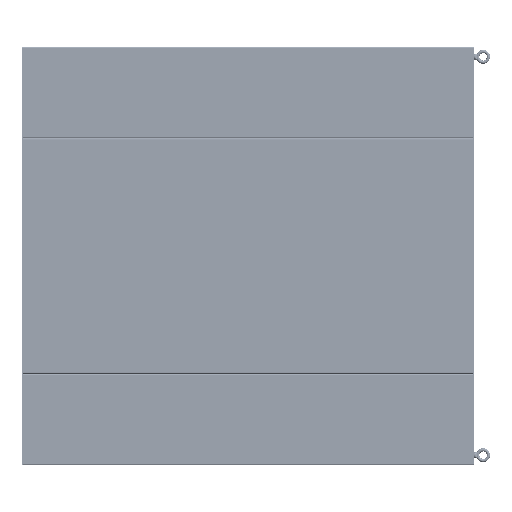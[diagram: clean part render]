
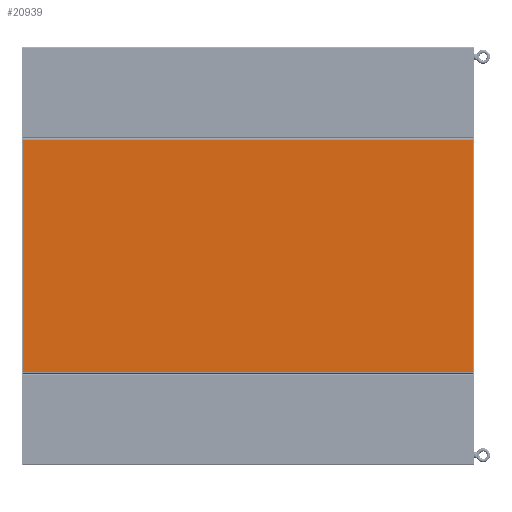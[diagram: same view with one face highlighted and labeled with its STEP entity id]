
A CAD part, left-side view. The second image highlights one B-rep face of the part: STEP entity #20939.
In plain terms, the highlighted planar face has unit normal (-1, 0, 0) as drawn and (0, 0, -1) by its records, which use the part's own axes.
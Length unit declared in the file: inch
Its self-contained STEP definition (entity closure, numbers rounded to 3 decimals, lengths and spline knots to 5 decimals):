
#20475=DIRECTION('',(0.,-1.,0.));
#20476=VECTOR('',#20475,83.75);
#20477=CARTESIAN_POINT('',(-21.625,0.,-0.125));
#20478=LINE('',#20477,#20476);
#20490=DIRECTION('',(1.,0.,0.));
#20491=VECTOR('',#20490,43.25);
#20492=CARTESIAN_POINT('',(-21.625,-83.75,-0.125));
#20493=LINE('',#20492,#20491);
#20497=DIRECTION('',(-1.,0.,0.));
#20498=VECTOR('',#20497,43.25);
#20499=CARTESIAN_POINT('',(21.625,0.,-0.125));
#20500=LINE('',#20499,#20498);
#20533=DIRECTION('',(0.,1.,0.));
#20534=VECTOR('',#20533,83.75);
#20535=CARTESIAN_POINT('',(21.625,-83.75,-0.125));
#20536=LINE('',#20535,#20534);
#20740=CARTESIAN_POINT('',(21.625,0.,-0.125));
#20741=VERTEX_POINT('',#20740);
#20742=CARTESIAN_POINT('',(21.625,-83.75,-0.125));
#20743=VERTEX_POINT('',#20742);
#20756=CARTESIAN_POINT('',(-21.625,-83.75,-0.125));
#20757=VERTEX_POINT('',#20756);
#20758=CARTESIAN_POINT('',(-21.625,0.,-0.125));
#20759=VERTEX_POINT('',#20758);
#20925=CARTESIAN_POINT('',(0.,0.,-0.125));
#20926=DIRECTION('',(0.,0.,1.));
#20927=DIRECTION('',(1.,0.,0.));
#20928=AXIS2_PLACEMENT_3D('',#20925,#20926,#20927);
#20929=PLANE('',#20928);
#20930=ORIENTED_EDGE('',*,*,#20918,.T.);
#20932=ORIENTED_EDGE('',*,*,#20931,.T.);
#20934=ORIENTED_EDGE('',*,*,#20933,.T.);
#20936=ORIENTED_EDGE('',*,*,#20935,.T.);
#20937=EDGE_LOOP('',(#20930,#20932,#20934,#20936));
#20938=FACE_OUTER_BOUND('',#20937,.F.);
#20918=EDGE_CURVE('',#20759,#20757,#20478,.T.);
#20931=EDGE_CURVE('',#20757,#20743,#20493,.T.);
#20933=EDGE_CURVE('',#20743,#20741,#20536,.T.);
#20935=EDGE_CURVE('',#20741,#20759,#20500,.T.);
#20939=ADVANCED_FACE('',(#20938),#20929,.F.);
